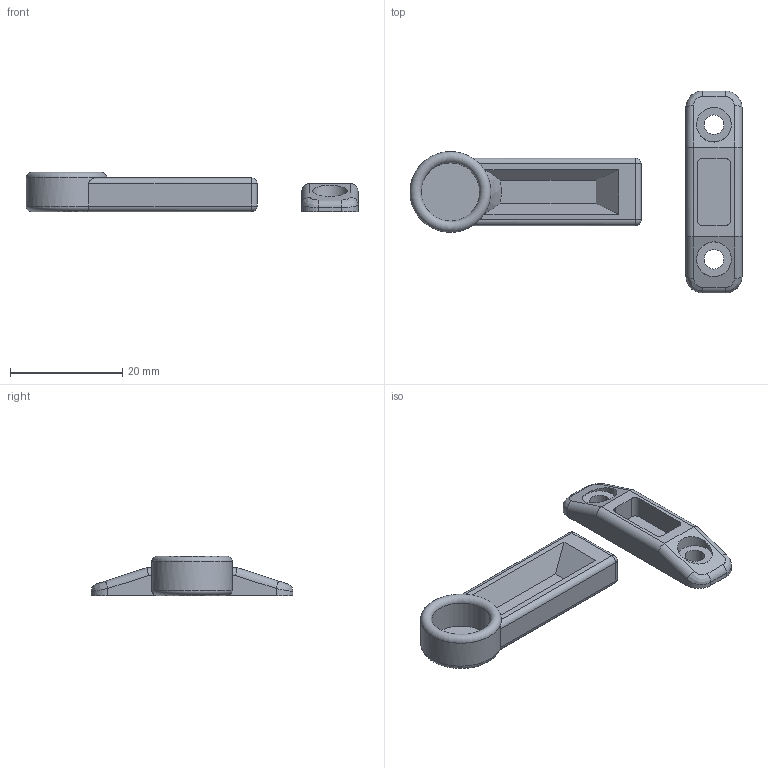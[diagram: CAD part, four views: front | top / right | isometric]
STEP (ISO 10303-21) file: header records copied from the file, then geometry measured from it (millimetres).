
FILE_DESCRIPTION(/* description */ (''),/* implementation_level */ '2;1');
FILE_NAME(/* name */ 'FerritHolder.step',/* time_stamp */ '2026-06-21T17:25:08+02:00',/* author */ (''),/* organization */ (''),/* preprocessor_version */ 'ST-DEVELOPER v20.1',/* originating_system */ 'Autodesk Translation Framework v15.8.0.0',/* authorisation */ '');
FILE_SCHEMA (('AUTOMOTIVE_DESIGN { 1 0 10303 214 3 1 1 }'));
Length unit declared in the file: millimetre
Products named in the file (4): 2026-06-11-08-03-41-367; 2026-06-11-10-33-16-979; 2026-06-11-10-49-01-634; 2026-06-11-11-00-53-288
Assembly tree (3 placements, depth 3):
  2026-06-11-08-03-41-367
    2026-06-11-10-33-16-979
      2026-06-11-10-49-01-634
      2026-06-11-11-00-53-288
Bounding box: 59.2 x 36 x 7 mm (x, y, z)
Volume: 3094.8 mm3; surface area: 3054.5 mm2
Topology: 2 solids, 2 shells, 66 faces, 146 edges, 87 vertices
Faces by surface type: cylinder 30, plane 25, sphere 4, bspline 4, torus 2, cone 1
Full cylindrical faces by diameter (mm): 3.5 x2, 6.2 x2, 10.4 x1
Entity records: 2070 total; most frequent: CARTESIAN_POINT 455, DIRECTION 343, ORIENTED_EDGE 292, EDGE_CURVE 146, AXIS2_PLACEMENT_3D 133, VERTEX_POINT 87, LINE 77, VECTOR 77
